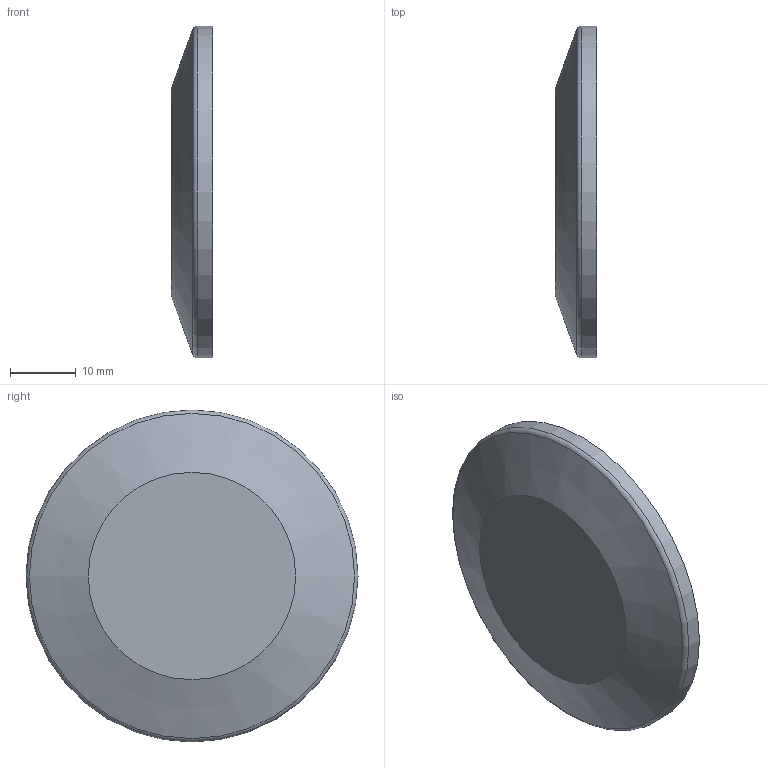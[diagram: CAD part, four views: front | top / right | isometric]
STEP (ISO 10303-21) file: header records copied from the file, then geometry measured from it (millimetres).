
FILE_DESCRIPTION(/* description */ (''),/* implementation_level */ '2;1');
FILE_NAME(/* name */ '12766-Ferrule size-50.stp',/* time_stamp */ '2024-12-16T08:03:37+01:00',/* author */ ('roger.thijssen'),/* organization */ (''),/* preprocessor_version */ 'ST-DEVELOPER v20',/* originating_system */ 'Autodesk Inventor 2025',/* authorisation */ '');
FILE_SCHEMA (('AUTOMOTIVE_DESIGN { 1 0 10303 214 3 1 1 }'));
Length unit declared in the file: millimetre
Products named in the file (1): 12766-Ferrule size-50
Bounding box: 6.3 x 50.5 x 50.5 mm (x, y, z)
Volume: 9861.2 mm3; surface area: 4718.6 mm2
Topology: 1 solids, 1 shells, 11 faces, 21 edges, 13 vertices
Faces by surface type: torus 4, cone 3, plane 3, cylinder 1
Full cylindrical faces by diameter (mm): 50.5 x1
Entity records: 351 total; most frequent: DIRECTION 62, CARTESIAN_POINT 46, ORIENTED_EDGE 42, AXIS2_PLACEMENT_3D 29, EDGE_CURVE 21, CIRCLE 17, VERTEX_POINT 13, EDGE_LOOP 12
